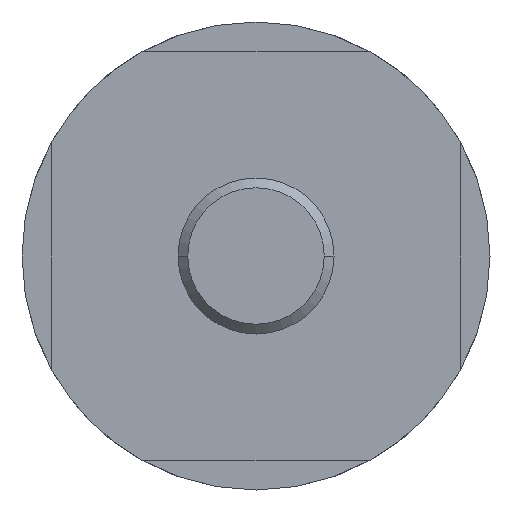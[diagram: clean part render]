
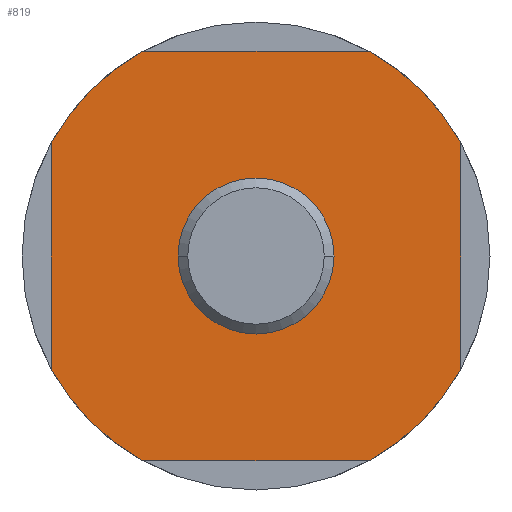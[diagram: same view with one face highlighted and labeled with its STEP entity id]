
A CAD part, front view. The second image highlights one B-rep face of the part: STEP entity #819.
In plain terms, the highlighted planar face has unit normal (0, -1, 0).
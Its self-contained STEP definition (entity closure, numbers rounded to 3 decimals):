
#4 = LINE ( 'NONE', #804, #935 ) ;
#6 = EDGE_CURVE ( 'NONE', #210, #707, #325, .T. ) ;
#20 = VERTEX_POINT ( 'NONE', #40 ) ;
#40 = CARTESIAN_POINT ( 'NONE',  ( -5.809, 0., -10.5 ) ) ;
#47 = ORIENTED_EDGE ( 'NONE', *, *, #546, .T. ) ;
#75 = CARTESIAN_POINT ( 'NONE',  ( 4., 0., 0. ) ) ;
#77 = ORIENTED_EDGE ( 'NONE', *, *, #812, .F. ) ;
#86 = DIRECTION ( 'NONE',  ( -1., 0., 0. ) ) ;
#96 = AXIS2_PLACEMENT_3D ( 'NONE', #109, #735, #203 ) ;
#100 = CARTESIAN_POINT ( 'NONE',  ( 10.5, 0., 10.5 ) ) ;
#109 = CARTESIAN_POINT ( 'NONE',  ( 0., 0., 0. ) ) ;
#114 = FACE_BOUND ( 'NONE', #404, .T. ) ;
#119 = CARTESIAN_POINT ( 'NONE',  ( 0., 0., 0. ) ) ;
#145 = VECTOR ( 'NONE', #857, 1000. ) ;
#147 = CARTESIAN_POINT ( 'NONE',  ( -10.5, 0., 5.809 ) ) ;
#151 = DIRECTION ( 'NONE',  ( 0., 1., 0. ) ) ;
#164 = DIRECTION ( 'NONE',  ( 0., 1., 0. ) ) ;
#189 = DIRECTION ( 'NONE',  ( 0., 0., 1. ) ) ;
#203 = DIRECTION ( 'NONE',  ( -1., 0., 0. ) ) ;
#210 = VERTEX_POINT ( 'NONE', #75 ) ;
#230 = CARTESIAN_POINT ( 'NONE',  ( -10.5, 0., -10.5 ) ) ;
#273 = CARTESIAN_POINT ( 'NONE',  ( -10.5, 0., -5.809 ) ) ;
#290 = VERTEX_POINT ( 'NONE', #856 ) ;
#298 = DIRECTION ( 'NONE',  ( -1., 0., 0. ) ) ;
#313 = EDGE_CURVE ( 'NONE', #606, #825, #762, .T. ) ;
#322 = ORIENTED_EDGE ( 'NONE', *, *, #1155, .T. ) ;
#325 = CIRCLE ( 'NONE', #1173, 4. ) ;
#348 = DIRECTION ( 'NONE',  ( -1., 0., 0. ) ) ;
#354 = PLANE ( 'NONE',  #772 ) ;
#404 = EDGE_LOOP ( 'NONE', ( #833, #1049 ) ) ;
#406 = AXIS2_PLACEMENT_3D ( 'NONE', #1168, #621, #86 ) ;
#416 = VECTOR ( 'NONE', #801, 1000. ) ;
#432 = CARTESIAN_POINT ( 'NONE',  ( 10.5, 0., 5.809 ) ) ;
#477 = VERTEX_POINT ( 'NONE', #1115 ) ;
#495 = CIRCLE ( 'NONE', #96, 12. ) ;
#505 = ORIENTED_EDGE ( 'NONE', *, *, #623, .F. ) ;
#512 = CARTESIAN_POINT ( 'NONE',  ( -4., 0., 0. ) ) ;
#537 = CARTESIAN_POINT ( 'NONE',  ( 0., 0., 0. ) ) ;
#546 = EDGE_CURVE ( 'NONE', #20, #290, #747, .T. ) ;
#606 = VERTEX_POINT ( 'NONE', #147 ) ;
#621 = DIRECTION ( 'NONE',  ( 0., 1., 0. ) ) ;
#623 = EDGE_CURVE ( 'NONE', #606, #477, #728, .T. ) ;
#627 = DIRECTION ( 'NONE',  ( -1., 0., 0. ) ) ;
#629 = DIRECTION ( 'NONE',  ( -1., 0., 0. ) ) ;
#639 = ORIENTED_EDGE ( 'NONE', *, *, #852, .T. ) ;
#653 = DIRECTION ( 'NONE',  ( 0., 1., 0. ) ) ;
#672 = AXIS2_PLACEMENT_3D ( 'NONE', #681, #151, #775 ) ;
#681 = CARTESIAN_POINT ( 'NONE',  ( 0., 0., 0. ) ) ;
#696 = CARTESIAN_POINT ( 'NONE',  ( 0., 0., 0. ) ) ;
#707 = VERTEX_POINT ( 'NONE', #512 ) ;
#709 = EDGE_CURVE ( 'NONE', #707, #210, #912, .T. ) ;
#723 = CARTESIAN_POINT ( 'NONE',  ( 10.5, 0., -5.809 ) ) ;
#728 = CIRCLE ( 'NONE', #672, 12. ) ;
#735 = DIRECTION ( 'NONE',  ( 0., 1., 0. ) ) ;
#742 = VECTOR ( 'NONE', #189, 1000. ) ;
#747 = LINE ( 'NONE', #230, #145 ) ;
#749 = ORIENTED_EDGE ( 'NONE', *, *, #831, .F. ) ;
#762 = LINE ( 'NONE', #1127, #416 ) ;
#772 = AXIS2_PLACEMENT_3D ( 'NONE', #808, #1171, #627 ) ;
#774 = ORIENTED_EDGE ( 'NONE', *, *, #313, .T. ) ;
#775 = DIRECTION ( 'NONE',  ( -1., 0., 0. ) ) ;
#777 = VERTEX_POINT ( 'NONE', #432 ) ;
#788 = DIRECTION ( 'NONE',  ( -1., 0., 0. ) ) ;
#801 = DIRECTION ( 'NONE',  ( 0., 0., -1. ) ) ;
#804 = CARTESIAN_POINT ( 'NONE',  ( -10.5, 0., 10.5 ) ) ;
#808 = CARTESIAN_POINT ( 'NONE',  ( 12., 0., 0. ) ) ;
#812 = EDGE_CURVE ( 'NONE', #20, #825, #1068, .T. ) ;
#819 = ADVANCED_FACE ( 'NONE', ( #114, #1012 ), #354, .F. ) ;
#825 = VERTEX_POINT ( 'NONE', #273 ) ;
#831 = EDGE_CURVE ( 'NONE', #873, #290, #1039, .T. ) ;
#833 = ORIENTED_EDGE ( 'NONE', *, *, #709, .T. ) ;
#840 = AXIS2_PLACEMENT_3D ( 'NONE', #537, #1174, #629 ) ;
#852 = EDGE_CURVE ( 'NONE', #873, #777, #986, .T. ) ;
#856 = CARTESIAN_POINT ( 'NONE',  ( 5.809, 0., -10.5 ) ) ;
#857 = DIRECTION ( 'NONE',  ( 1., 0., 0. ) ) ;
#873 = VERTEX_POINT ( 'NONE', #723 ) ;
#912 = CIRCLE ( 'NONE', #1040, 4. ) ;
#913 = EDGE_CURVE ( 'NONE', #989, #777, #495, .T. ) ;
#935 = VECTOR ( 'NONE', #348, 1000. ) ;
#957 = CARTESIAN_POINT ( 'NONE',  ( 5.809, 0., 10.5 ) ) ;
#986 = LINE ( 'NONE', #100, #742 ) ;
#989 = VERTEX_POINT ( 'NONE', #957 ) ;
#1012 = FACE_OUTER_BOUND ( 'NONE', #1016, .T. ) ;
#1016 = EDGE_LOOP ( 'NONE', ( #774, #77, #47, #749, #639, #1092, #322, #505 ) ) ;
#1039 = CIRCLE ( 'NONE', #840, 12. ) ;
#1040 = AXIS2_PLACEMENT_3D ( 'NONE', #696, #164, #788 ) ;
#1049 = ORIENTED_EDGE ( 'NONE', *, *, #6, .T. ) ;
#1068 = CIRCLE ( 'NONE', #406, 12. ) ;
#1092 = ORIENTED_EDGE ( 'NONE', *, *, #913, .F. ) ;
#1115 = CARTESIAN_POINT ( 'NONE',  ( -5.809, 0., 10.5 ) ) ;
#1127 = CARTESIAN_POINT ( 'NONE',  ( -10.5, 0., 10.5 ) ) ;
#1155 = EDGE_CURVE ( 'NONE', #989, #477, #4, .T. ) ;
#1168 = CARTESIAN_POINT ( 'NONE',  ( 0., 0., 0. ) ) ;
#1171 = DIRECTION ( 'NONE',  ( 0., 1., 0. ) ) ;
#1173 = AXIS2_PLACEMENT_3D ( 'NONE', #119, #653, #298 ) ;
#1174 = DIRECTION ( 'NONE',  ( 0., 1., 0. ) ) ;
